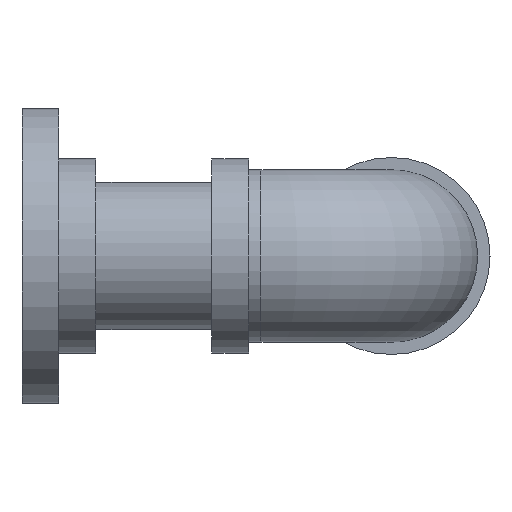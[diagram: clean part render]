
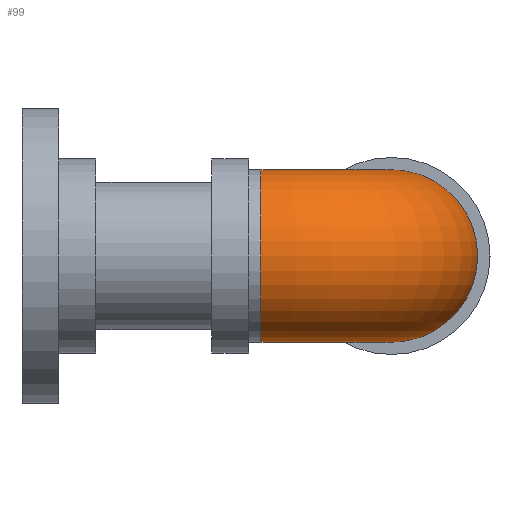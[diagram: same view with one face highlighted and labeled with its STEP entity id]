
A CAD part, left-side view. The second image highlights one B-rep face of the part: STEP entity #99.
In plain terms, the highlighted toroidal (fillet/blend) face has major radius 10.6 mm and minor radius 7 mm.
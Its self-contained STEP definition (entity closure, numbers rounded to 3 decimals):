
#99 = ADVANCED_FACE( '', ( #225, #226 ), #227, .T. );
#225 = FACE_OUTER_BOUND( '', #370, .T. );
#226 = FACE_OUTER_BOUND( '', #371, .T. );
#227 = TOROIDAL_SURFACE( '', #372, 10.6, 7. );
#370 = EDGE_LOOP( '', ( #549 ) );
#371 = EDGE_LOOP( '', ( #550 ) );
#372 = AXIS2_PLACEMENT_3D( '', #551, #552, #553 );
#549 = ORIENTED_EDGE( '', *, *, #687, .T. );
#550 = ORIENTED_EDGE( '', *, *, #653, .F. );
#551 = CARTESIAN_POINT( '', ( 10.6, -19.4, 0. ) );
#552 = DIRECTION( '', ( 0., 0., 1. ) );
#553 = DIRECTION( '', ( 1., 0., 0. ) );
#653 = EDGE_CURVE( '', #732, #732, #733, .T. );
#687 = EDGE_CURVE( '', #785, #785, #786, .T. );
#732 = VERTEX_POINT( '', #835 );
#733 = CIRCLE( '', #836, 7. );
#785 = VERTEX_POINT( '', #888 );
#786 = CIRCLE( '', #889, 7. );
#835 = CARTESIAN_POINT( '', ( 10.6, -37., 0. ) );
#836 = AXIS2_PLACEMENT_3D( '', #942, #943, #944 );
#888 = CARTESIAN_POINT( '', ( -7., -19.4, 0. ) );
#889 = AXIS2_PLACEMENT_3D( '', #999, #1000, #1001 );
#942 = CARTESIAN_POINT( '', ( 10.6, -30., 0. ) );
#943 = DIRECTION( '', ( 1., 0., 0. ) );
#944 = DIRECTION( '', ( 0., -1., 0. ) );
#999 = CARTESIAN_POINT( '', ( 0., -19.4, 0. ) );
#1000 = DIRECTION( '', ( 0., -1., 0. ) );
#1001 = DIRECTION( '', ( -1., 0., 0. ) );
